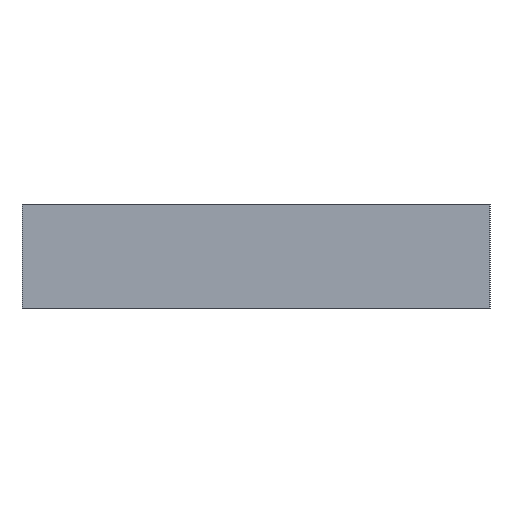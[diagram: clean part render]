
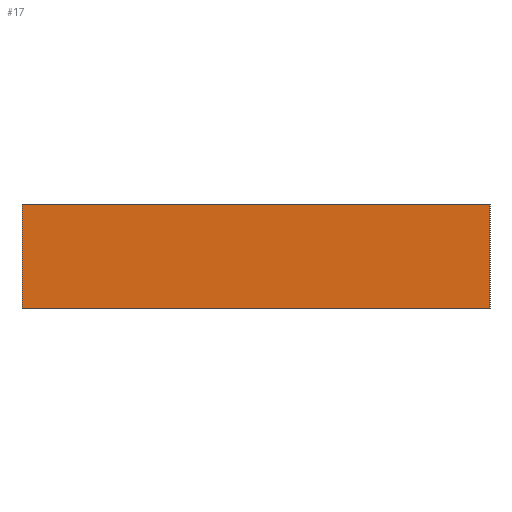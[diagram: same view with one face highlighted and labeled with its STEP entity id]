
A CAD part, left-side view. The second image highlights one B-rep face of the part: STEP entity #17.
In plain terms, the highlighted planar face has unit normal (-1, 0, 0).
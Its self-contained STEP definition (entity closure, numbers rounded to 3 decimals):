
#17 = ADVANCED_FACE('',(#18),#32,.F.);
#18 = FACE_BOUND('',#19,.F.);
#19 = EDGE_LOOP('',(#20,#55,#83,#111));
#20 = ORIENTED_EDGE('',*,*,#21,.F.);
#21 = EDGE_CURVE('',#22,#24,#26,.T.);
#22 = VERTEX_POINT('',#23);
#23 = CARTESIAN_POINT('',(-62.5,-18.,0.));
#24 = VERTEX_POINT('',#25);
#25 = CARTESIAN_POINT('',(-62.5,-18.,8.));
#26 = SURFACE_CURVE('',#27,(#31,#43),.PCURVE_S1.);
#27 = LINE('',#28,#29);
#28 = CARTESIAN_POINT('',(-62.5,-18.,0.));
#29 = VECTOR('',#30,1.);
#30 = DIRECTION('',(0.,0.,1.));
#31 = PCURVE('',#32,#37);
#32 = PLANE('',#33);
#33 = AXIS2_PLACEMENT_3D('',#34,#35,#36);
#34 = CARTESIAN_POINT('',(-62.5,-18.,0.));
#35 = DIRECTION('',(1.,0.,0.));
#36 = DIRECTION('',(0.,0.,1.));
#37 = DEFINITIONAL_REPRESENTATION('',(#38),#42);
#38 = LINE('',#39,#40);
#39 = CARTESIAN_POINT('',(0.,0.));
#40 = VECTOR('',#41,1.);
#41 = DIRECTION('',(1.,0.));
#42 = ( GEOMETRIC_REPRESENTATION_CONTEXT(2) 
PARAMETRIC_REPRESENTATION_CONTEXT() REPRESENTATION_CONTEXT('2D SPACE',''
  ) );
#43 = PCURVE('',#44,#49);
#44 = PLANE('',#45);
#45 = AXIS2_PLACEMENT_3D('',#46,#47,#48);
#46 = CARTESIAN_POINT('',(-62.5,-18.,0.));
#47 = DIRECTION('',(0.,1.,0.));
#48 = DIRECTION('',(0.,0.,1.));
#49 = DEFINITIONAL_REPRESENTATION('',(#50),#54);
#50 = LINE('',#51,#52);
#51 = CARTESIAN_POINT('',(0.,0.));
#52 = VECTOR('',#53,1.);
#53 = DIRECTION('',(1.,0.));
#54 = ( GEOMETRIC_REPRESENTATION_CONTEXT(2) 
PARAMETRIC_REPRESENTATION_CONTEXT() REPRESENTATION_CONTEXT('2D SPACE',''
  ) );
#55 = ORIENTED_EDGE('',*,*,#56,.T.);
#56 = EDGE_CURVE('',#22,#57,#59,.T.);
#57 = VERTEX_POINT('',#58);
#58 = CARTESIAN_POINT('',(-62.5,18.,0.));
#59 = SURFACE_CURVE('',#60,(#64,#71),.PCURVE_S1.);
#60 = LINE('',#61,#62);
#61 = CARTESIAN_POINT('',(-62.5,-18.,0.));
#62 = VECTOR('',#63,1.);
#63 = DIRECTION('',(0.,1.,0.));
#64 = PCURVE('',#32,#65);
#65 = DEFINITIONAL_REPRESENTATION('',(#66),#70);
#66 = LINE('',#67,#68);
#67 = CARTESIAN_POINT('',(0.,0.));
#68 = VECTOR('',#69,1.);
#69 = DIRECTION('',(0.,-1.));
#70 = ( GEOMETRIC_REPRESENTATION_CONTEXT(2) 
PARAMETRIC_REPRESENTATION_CONTEXT() REPRESENTATION_CONTEXT('2D SPACE',''
  ) );
#71 = PCURVE('',#72,#77);
#72 = PLANE('',#73);
#73 = AXIS2_PLACEMENT_3D('',#74,#75,#76);
#74 = CARTESIAN_POINT('',(-62.5,-18.,0.));
#75 = DIRECTION('',(0.,0.,1.));
#76 = DIRECTION('',(1.,0.,0.));
#77 = DEFINITIONAL_REPRESENTATION('',(#78),#82);
#78 = LINE('',#79,#80);
#79 = CARTESIAN_POINT('',(0.,0.));
#80 = VECTOR('',#81,1.);
#81 = DIRECTION('',(0.,1.));
#82 = ( GEOMETRIC_REPRESENTATION_CONTEXT(2) 
PARAMETRIC_REPRESENTATION_CONTEXT() REPRESENTATION_CONTEXT('2D SPACE',''
  ) );
#83 = ORIENTED_EDGE('',*,*,#84,.T.);
#84 = EDGE_CURVE('',#57,#85,#87,.T.);
#85 = VERTEX_POINT('',#86);
#86 = CARTESIAN_POINT('',(-62.5,18.,8.));
#87 = SURFACE_CURVE('',#88,(#92,#99),.PCURVE_S1.);
#88 = LINE('',#89,#90);
#89 = CARTESIAN_POINT('',(-62.5,18.,0.));
#90 = VECTOR('',#91,1.);
#91 = DIRECTION('',(0.,0.,1.));
#92 = PCURVE('',#32,#93);
#93 = DEFINITIONAL_REPRESENTATION('',(#94),#98);
#94 = LINE('',#95,#96);
#95 = CARTESIAN_POINT('',(0.,-36.));
#96 = VECTOR('',#97,1.);
#97 = DIRECTION('',(1.,0.));
#98 = ( GEOMETRIC_REPRESENTATION_CONTEXT(2) 
PARAMETRIC_REPRESENTATION_CONTEXT() REPRESENTATION_CONTEXT('2D SPACE',''
  ) );
#99 = PCURVE('',#100,#105);
#100 = PLANE('',#101);
#101 = AXIS2_PLACEMENT_3D('',#102,#103,#104);
#102 = CARTESIAN_POINT('',(-62.5,18.,0.));
#103 = DIRECTION('',(0.,1.,0.));
#104 = DIRECTION('',(0.,0.,1.));
#105 = DEFINITIONAL_REPRESENTATION('',(#106),#110);
#106 = LINE('',#107,#108);
#107 = CARTESIAN_POINT('',(0.,0.));
#108 = VECTOR('',#109,1.);
#109 = DIRECTION('',(1.,0.));
#110 = ( GEOMETRIC_REPRESENTATION_CONTEXT(2) 
PARAMETRIC_REPRESENTATION_CONTEXT() REPRESENTATION_CONTEXT('2D SPACE',''
  ) );
#111 = ORIENTED_EDGE('',*,*,#112,.F.);
#112 = EDGE_CURVE('',#24,#85,#113,.T.);
#113 = SURFACE_CURVE('',#114,(#118,#125),.PCURVE_S1.);
#114 = LINE('',#115,#116);
#115 = CARTESIAN_POINT('',(-62.5,-18.,8.));
#116 = VECTOR('',#117,1.);
#117 = DIRECTION('',(0.,1.,0.));
#118 = PCURVE('',#32,#119);
#119 = DEFINITIONAL_REPRESENTATION('',(#120),#124);
#120 = LINE('',#121,#122);
#121 = CARTESIAN_POINT('',(8.,0.));
#122 = VECTOR('',#123,1.);
#123 = DIRECTION('',(0.,-1.));
#124 = ( GEOMETRIC_REPRESENTATION_CONTEXT(2) 
PARAMETRIC_REPRESENTATION_CONTEXT() REPRESENTATION_CONTEXT('2D SPACE',''
  ) );
#125 = PCURVE('',#126,#131);
#126 = PLANE('',#127);
#127 = AXIS2_PLACEMENT_3D('',#128,#129,#130);
#128 = CARTESIAN_POINT('',(-62.5,-18.,8.));
#129 = DIRECTION('',(0.,0.,1.));
#130 = DIRECTION('',(1.,0.,0.));
#131 = DEFINITIONAL_REPRESENTATION('',(#132),#136);
#132 = LINE('',#133,#134);
#133 = CARTESIAN_POINT('',(0.,0.));
#134 = VECTOR('',#135,1.);
#135 = DIRECTION('',(0.,1.));
#136 = ( GEOMETRIC_REPRESENTATION_CONTEXT(2) 
PARAMETRIC_REPRESENTATION_CONTEXT() REPRESENTATION_CONTEXT('2D SPACE',''
  ) );
